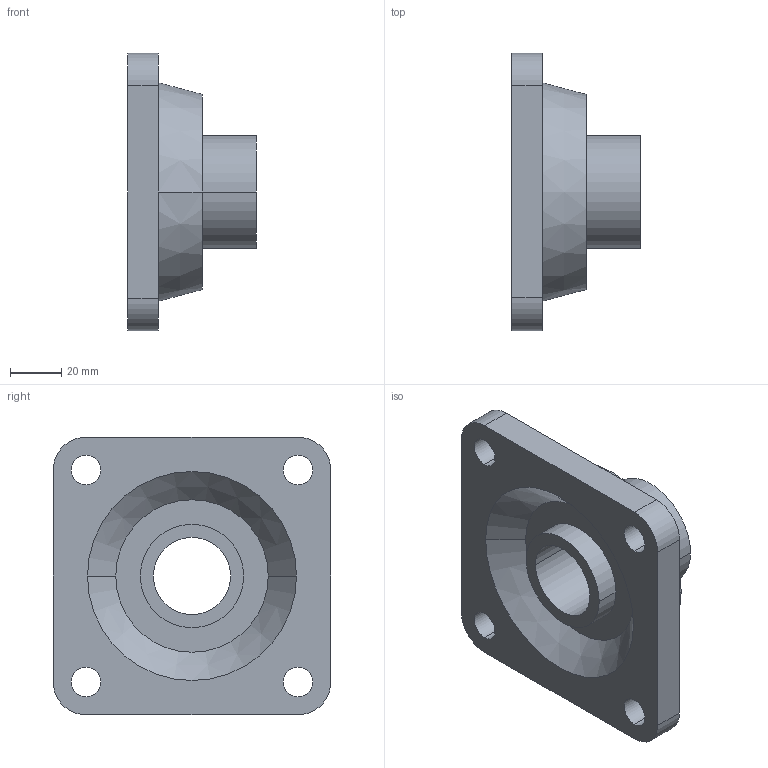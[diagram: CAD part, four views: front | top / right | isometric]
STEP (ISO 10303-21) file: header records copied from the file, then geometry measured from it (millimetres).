
FILE_DESCRIPTION(('SolidDesigner STEP Export'),'2;1');
FILE_NAME('Flanschlager_RCJ_30.stp','2002-07-16T11:23:51',(''),(''),'SolidDesigner STEP processor Version: 9.0 (March 2001)for AP214(CD)(Solid Model)','CoCreate SolidDesigner: 11.00 12-Dec-2001(C) CoCreate Software GmbH','');
FILE_SCHEMA(('AUTOMOTIVE_DESIGN_CC2 {1 2 10303 214 -1 1 5 1}'));
Length unit declared in the file: millimetre
Products named in the file (1): Flanschlager_RCJ_30
Bounding box: 50.1 x 108 x 108 mm (x, y, z)
Volume: 186398.6 mm3; surface area: 40415.9 mm2
Topology: 1 solids, 1 shells, 32 faces, 78 edges, 52 vertices
Faces by surface type: cylinder 18, plane 10, cone 4
Entity records: 873 total; most frequent: ORIENTED_EDGE 156, CARTESIAN_POINT 136, DIRECTION 134, EDGE_CURVE 78, VERTEX_POINT 52, AXIS2_PLACEMENT_3D 50, EDGE_LOOP 46, VECTOR 34
